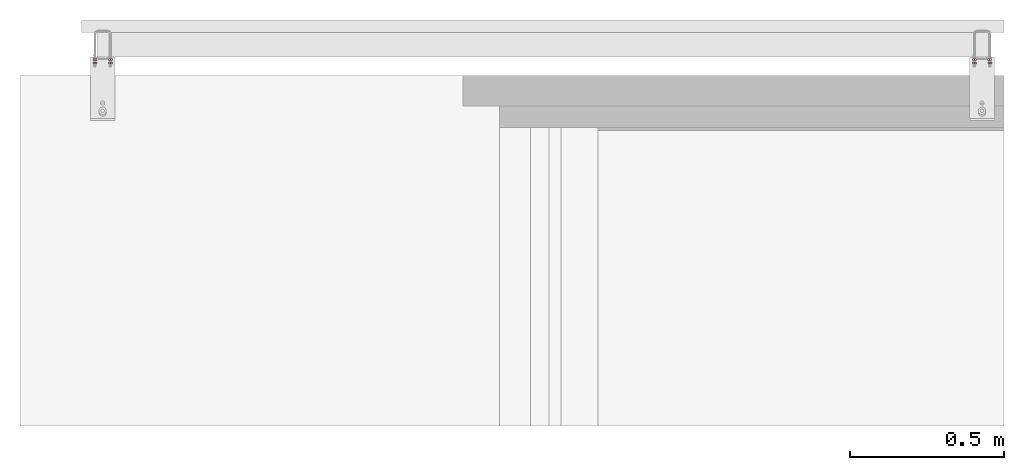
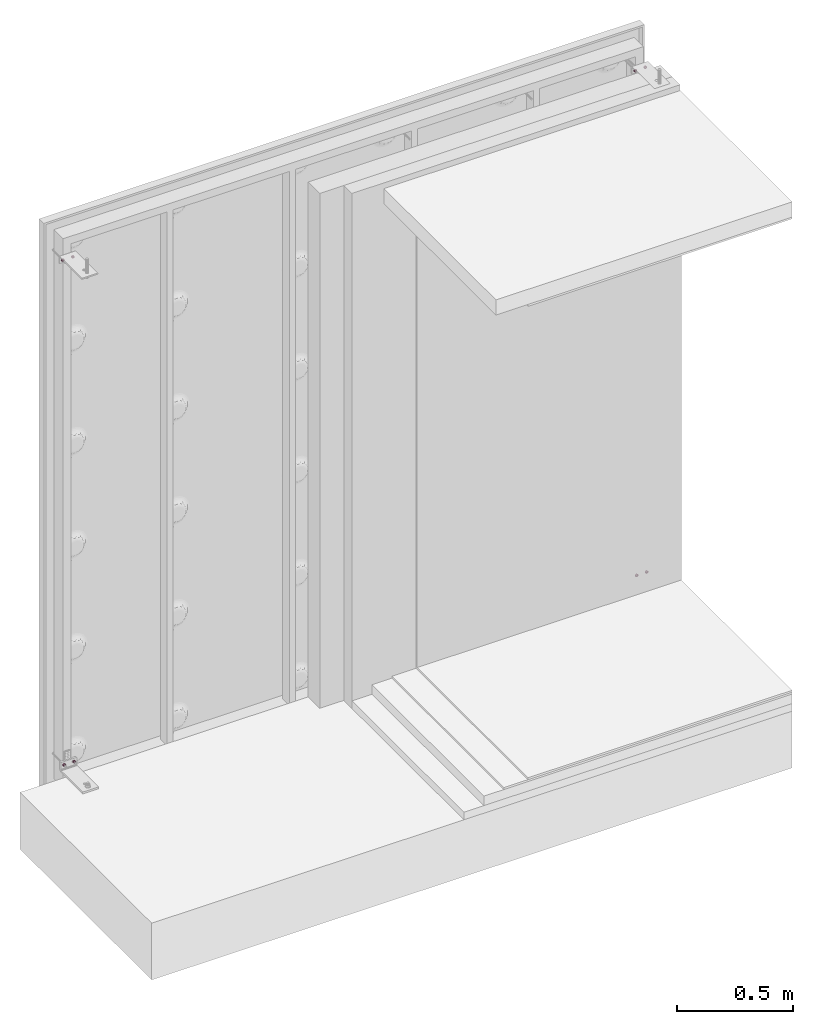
# One storey, part 13 of 13: 8 furnishings.
"""IFC2X3 building model written with IfcOpenShell, lengths in metres."""

import ifcopenshell
import ifcopenshell.guid

model = None  # the IFC model being written
_history = None  # IfcOwnerHistory: only IFC2X3 demands one
_inside = {}  # id of a spatial element -> (the spatial element, [elements in it])
_under = {}  # id of a project, library or spatial element -> (it, [spatial elements below it])
_declared = {}  # id of a project -> (the project, [libraries it declares])
_typed = {}  # id of a type object -> (the type object, [elements of that type])
_made_of = {}  # id of a material, layer set ... -> (it, [elements and type objects made of it])


def new_model(schema):
    """Start an empty IFC model of exactly this schema.

    Asked for "IFC4X3", IfcOpenShell would pick the latest addendum, in which some entities
    have other attributes; the version numbers below select the first issue.
    IFC2X3 requires an IfcOwnerHistory on every rooted entity: one is made here for all.
    """
    global model, _history
    if schema == "IFC4X3":
        model = ifcopenshell.file(schema_version=(4, 3, 0, 0))
    else:
        model = ifcopenshell.file(schema=schema)
    _inside.clear()
    _under.clear()
    _declared.clear()
    _typed.clear()
    _made_of.clear()
    _history = None
    if model.schema == "IFC2X3":
        org = make("IfcOrganization", Name="unknown")
        user = make(
            "IfcPersonAndOrganization",
            ThePerson=make("IfcPerson", FamilyName="unknown"),
            TheOrganization=org,
        )
        app = make(
            "IfcApplication",
            ApplicationDeveloper=org,
            Version="unknown",
            ApplicationFullName="unknown",
            ApplicationIdentifier="unknown",
        )
        _history = make(
            "IfcOwnerHistory",
            OwningUser=user,
            OwningApplication=app,
            ChangeAction="ADDED",
            CreationDate=0,
        )
    return model


def make(cls, **values):
    """One entity of the class cls with the attributes given. An attribute that is None is left unset."""
    return model.create_entity(
        cls, **{name: value for name, value in values.items() if value is not None}
    )


def entity(cls, *values):
    """Any entity or typed value of the class cls, its attributes in the order of the schema. None: left unset."""
    e = model.create_entity(cls)
    for i, value in enumerate(values):
        if value is not None:
            e[i] = value
    return e


def rooted(cls, **values):
    """An entity with a GlobalId (a new one), such as an element, a storey or a relation."""
    return make(cls, GlobalId=ifcopenshell.guid.new(), OwnerHistory=_history, **values)


def si_unit(unit_type, name, prefix=None):
    """IfcSIUnit, for example si_unit("LENGTHUNIT", "METRE", prefix="MILLI")."""
    return make("IfcSIUnit", UnitType=unit_type, Prefix=prefix, Name=name)


def converted_unit(unit_type, name, factor, base, dimensions=None, offset=None):
    """IfcConversionBasedUnit, such as the inch: factor (a typed value) times the base unit."""
    return make(
        "IfcConversionBasedUnit"
        if offset is None
        else "IfcConversionBasedUnitWithOffset",
        ConversionOffset=offset,
        Dimensions=None
        if dimensions is None
        else entity("IfcDimensionalExponents", *dimensions),
        UnitType=unit_type,
        Name=name,
        ConversionFactor=make(
            "IfcMeasureWithUnit", ValueComponent=factor, UnitComponent=base
        ),
    )


def derived_unit(unit_type, elements):
    """IfcDerivedUnit: a product of units, each with its exponent."""
    return make(
        "IfcDerivedUnit",
        Elements=[
            make("IfcDerivedUnitElement", Unit=unit, Exponent=power)
            for unit, power in elements
        ],
        UnitType=unit_type,
    )


def assignment(units):
    """IfcUnitAssignment: the units of a project."""
    return None if units is None else make("IfcUnitAssignment", Units=units)


def point(xyz):
    """IfcCartesianPoint."""
    return None if xyz is None else make("IfcCartesianPoint", Coordinates=xyz)


def direction(xyz):
    """IfcDirection."""
    return None if xyz is None else make("IfcDirection", DirectionRatios=xyz)


def frame(location, z_axis=None, x_axis=None):
    """IfcAxis2Placement3D, a coordinate frame: its origin and axes. An axis left out is left unset."""
    return make(
        "IfcAxis2Placement3D",
        Location=point(location),
        Axis=direction(z_axis),
        RefDirection=direction(x_axis),
    )


def frame_2d(location, x_axis=None):
    """IfcAxis2Placement2D, a coordinate frame in the plane: its origin and x axis."""
    return make(
        "IfcAxis2Placement2D", Location=point(location), RefDirection=direction(x_axis)
    )


def origin():
    """The frame at (0, 0, 0) with its axes left unset."""
    return frame((0.0, 0.0, 0.0))


def place(relative_to, where):
    """IfcLocalPlacement: puts the frame where relative to a parent placement (None: the world)."""
    return make(
        "IfcLocalPlacement", PlacementRelTo=relative_to, RelativePlacement=where
    )


def context(
    kind, dimensions, precision=None, world=None, true_north=None, identifier=None
):
    """IfcGeometricRepresentationContext, for example the 3D "Model" context."""
    return make(
        "IfcGeometricRepresentationContext",
        ContextIdentifier=identifier,
        ContextType=kind,
        CoordinateSpaceDimension=dimensions,
        Precision=precision,
        WorldCoordinateSystem=world,
        TrueNorth=true_north,
    )


def subcontext(parent, identifier, kind, view, scale=None):
    """IfcGeometricRepresentationSubContext, for example "Body" below "Model"."""
    return make(
        "IfcGeometricRepresentationSubContext",
        ContextIdentifier=identifier,
        ContextType=kind,
        ParentContext=parent,
        TargetScale=scale,
        TargetView=view,
    )


def project(units=None, contexts=None):
    """IfcProject with its units and contexts."""
    return rooted(
        "IfcProject",
        Name="project",
        RepresentationContexts=contexts,
        UnitsInContext=assignment(units),
    )


def spatial(cls, under=None, at=None, **own):
    """A site, building, storey or space (cls), placed at a placement, below another one or the project."""
    s = rooted(cls, ObjectPlacement=at, **own)
    if under is not None:
        _under.setdefault(under.id(), (under, []))[1].append(s)
    return s


def polyline(points):
    """IfcPolyline through the points."""
    return make("IfcPolyline", Points=[point(p) for p in points])


def circle_curve(where, radius):
    """IfcCircle in the frame where."""
    return make("IfcCircle", Position=where, Radius=radius)


def parameter(value):
    """IfcParameterValue: where a trimmed curve begins or ends, as a parameter of its basis curve."""
    return model.create_entity("IfcParameterValue", value)


def trimmed(basis, trim1, trim2, sense, master):
    """IfcTrimmedCurve: the piece of a basis curve between two trims."""
    return make(
        "IfcTrimmedCurve",
        BasisCurve=basis,
        Trim1=trim1,
        Trim2=trim2,
        SenseAgreement=sense,
        MasterRepresentation=master,
    )


def segment(curve, same_sense, transition):
    """IfcCompositeCurveSegment."""
    return make(
        "IfcCompositeCurveSegment",
        Transition=transition,
        SameSense=same_sense,
        ParentCurve=curve,
    )


def composite_curve(segments, self_intersect=None):
    """IfcCompositeCurve: segments joined end to end."""
    return make("IfcCompositeCurve", Segments=segments, SelfIntersect=self_intersect)


def outline(outer, holes=None, kind="AREA"):
    """IfcArbitraryClosedProfileDef: a profile drawn as a closed curve; with holes, ...WithVoids."""
    if holes is None:
        return make("IfcArbitraryClosedProfileDef", ProfileType=kind, OuterCurve=outer)
    return make(
        "IfcArbitraryProfileDefWithVoids",
        ProfileType=kind,
        OuterCurve=outer,
        InnerCurves=holes,
    )


def extrude(swept, where, along, depth):
    """IfcExtrudedAreaSolid: the profile swept, set in the frame where, extruded along a direction by depth."""
    return make(
        "IfcExtrudedAreaSolid",
        SweptArea=swept,
        Position=where,
        ExtrudedDirection=direction(along),
        Depth=depth,
    )


def shape(context_of_items, identifier, shape_type, items):
    """IfcShapeRepresentation: the items that make up one representation, for example the "Body"."""
    return make(
        "IfcShapeRepresentation",
        ContextOfItems=context_of_items,
        RepresentationIdentifier=identifier,
        RepresentationType=shape_type,
        Items=items,
    )


def source(mapping_origin, context_of_items, identifier, shape_type, items):
    """IfcRepresentationMap: a shape defined once, which mapped items show again and again."""
    return make(
        "IfcRepresentationMap",
        MappingOrigin=mapping_origin,
        MappedRepresentation=shape(context_of_items, identifier, shape_type, items),
    )


def transform(
    local_origin,
    x_axis=None,
    y_axis=None,
    z_axis=None,
    scale=None,
    scale2=None,
    scale3=None,
    uniform=True,
):
    """IfcCartesianTransformationOperator3D, or its non-uniform kind. x_axis, y_axis, z_axis: its Axis1, 2, 3."""
    if uniform:
        return make(
            "IfcCartesianTransformationOperator3D",
            Axis1=direction(x_axis),
            Axis2=direction(y_axis),
            LocalOrigin=point(local_origin),
            Scale=scale,
            Axis3=direction(z_axis),
        )
    return make(
        "IfcCartesianTransformationOperator3DnonUniform",
        Axis1=direction(x_axis),
        Axis2=direction(y_axis),
        LocalOrigin=point(local_origin),
        Scale=scale,
        Axis3=direction(z_axis),
        Scale2=scale2,
        Scale3=scale3,
    )


def mapped(mapping_source, mapping_target):
    """IfcMappedItem: shows the shape of a source again, moved by a transform."""
    return make(
        "IfcMappedItem", MappingSource=mapping_source, MappingTarget=mapping_target
    )


def material(Name=None, Category=None):
    """IfcMaterial."""
    return make("IfcMaterial", Name=Name, Category=Category)


def made_of(thing, what):
    """Note that an element or type object is made of a material, layer set ...; save() writes the relation."""
    if what is not None:
        _made_of.setdefault(what.id(), (what, []))[1].append(thing)
    return thing


def type_object(cls, material=None, **own):
    """A type object (cls), such as IfcWallType, which elements share."""
    return made_of(rooted(cls, **own), material)


def type_shapes(of_type, sources):
    """Give a type object the sources (RepresentationMaps) that its elements show as mapped items."""
    of_type.RepresentationMaps = sources


def element(
    cls,
    number,
    at=None,
    inside=None,
    cuts=None,
    type_object=None,
    material=None,
    context=None,
    identifier="Body",
    shape_type=None,
    held_by="IfcProductDefinitionShape",
    body=None,
    shapes=None,
    **own,
):
    """One element of the class cls, such as IfcWall. Its Tag is "e" and its number.

    at: its placement. inside: the storey or other place that contains it. cuts: it is an
    opening in that element (IfcRelVoidsElement). A single representation is given by context,
    identifier, shape_type and body (its items); several are given by shapes. held_by: the class
    of the entity that holds the representations. save() writes the other relations.
    """
    e = rooted(cls, Tag="e%d" % number, ObjectPlacement=at, **own)
    if body is not None:
        shapes = [shape(context, identifier, shape_type, body)]
    if shapes is not None:
        e.Representation = make(held_by, Representations=shapes)
    if inside is not None:
        _inside.setdefault(inside.id(), (inside, []))[1].append(e)
    if cuts is not None:
        rooted(
            "IfcRelVoidsElement", RelatingBuildingElement=cuts, RelatedOpeningElement=e
        )
    if type_object is not None:
        _typed.setdefault(type_object.id(), (type_object, []))[1].append(e)
    return made_of(e, material)


def aggregate(whole, parts):
    """IfcRelAggregates: a whole, such as a stair, and the parts it consists of."""
    return rooted("IfcRelAggregates", RelatingObject=whole, RelatedObjects=parts)


def save(model, path):
    """Write the relations noted so far, then the file.

    IfcRelAggregates (storeys below a building ...), IfcRelContainedInSpatialStructure (elements
    in a storey), IfcRelDefinesByType, IfcRelAssociatesMaterial and IfcRelDeclares: one each for
    every whole, place, type object, material and project.
    """
    for whole, parts in _under.values():
        aggregate(whole, parts)
    for where, things in _inside.values():
        rooted(
            "IfcRelContainedInSpatialStructure",
            RelatedElements=things,
            RelatingStructure=where,
        )
    for kind, things in _typed.values():
        rooted("IfcRelDefinesByType", RelatedObjects=things, RelatingType=kind)
    for what, things in _made_of.values():
        rooted("IfcRelAssociatesMaterial", RelatedObjects=things, RelatingMaterial=what)
    for by, libraries in _declared.values():
        rooted("IfcRelDeclares", RelatingContext=by, RelatedDefinitions=libraries)
    model.write(path)


model = new_model("IFC2X3")

# Units and contexts
model_context = context("Model", 3, precision=1e-05, world=origin(), true_north=direction((6.123031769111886e-17, 1.0)))
body_context = subcontext(model_context, "Body", "Model", "MODEL_VIEW")
ifc_project = project(units=[si_unit("LENGTHUNIT", "METRE"), si_unit("AREAUNIT", "SQUARE_METRE"), converted_unit("PLANEANGLEUNIT", "DEGREE", entity("IfcPlaneAngleMeasure", 0.017453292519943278), si_unit("PLANEANGLEUNIT", "RADIAN"), dimensions=[0, 0, 0, 0, 0, 0, 0]), si_unit("VOLUMEUNIT", "CUBIC_METRE"), derived_unit("THERMALTRANSMITTANCEUNIT", [(si_unit("MASSUNIT", "GRAM", prefix="KILO"), 1), (si_unit("THERMODYNAMICTEMPERATUREUNIT", "KELVIN"), -1), (si_unit("TIMEUNIT", "SECOND"), -3)]), derived_unit("USERDEFINED", [(si_unit("MASSUNIT", "GRAM", prefix="KILO"), 1), (si_unit("THERMODYNAMICTEMPERATUREUNIT", "KELVIN"), -1), (si_unit("TIMEUNIT", "SECOND"), -2)]), derived_unit("THERMALRESISTANCEUNIT", [(si_unit("MASSUNIT", "GRAM", prefix="KILO"), -1), (si_unit("TIMEUNIT", "SECOND"), 3), (si_unit("THERMODYNAMICTEMPERATUREUNIT", "KELVIN"), 1)]), derived_unit("MASSDENSITYUNIT", [(si_unit("MASSUNIT", "GRAM", prefix="KILO"), 1), (si_unit("LENGTHUNIT", "METRE"), -3)]), derived_unit("VAPORPERMEABILITYUNIT", [(si_unit("LENGTHUNIT", "METRE"), -1), (si_unit("TIMEUNIT", "SECOND"), 1)]), derived_unit("USERDEFINED", [(si_unit("MASSUNIT", "GRAM", prefix="KILO"), 1), (si_unit("TIMEUNIT", "SECOND"), -3), (si_unit("LENGTHUNIT", "METRE"), 3), (si_unit("ELECTRICCURRENTUNIT", "AMPERE"), -2)]), si_unit("PRESSUREUNIT", "PASCAL")], contexts=[model_context])

# Site, building, storey
site_placement = place(None, origin())
site = spatial("IfcSite", under=ifc_project, at=site_placement, Name="Default", CompositionType="ELEMENT")
building_placement = place(site_placement, origin())
building = spatial("IfcBuilding", under=site, at=building_placement, CompositionType="ELEMENT")
storey_placement = place(building_placement, origin())
storey = spatial("IfcBuildingStorey", under=building, at=storey_placement, Name="L0", CompositionType="ELEMENT", Elevation=0.0)

# Furnishings
ifc_material = material(Name="REC_Acero, S 275JR (Zincado)")
furniture_type = type_object("IfcFurnitureType", Name="REC_A_M8:REC_A_M8", AssemblyPlace="NOTDEFINED", material=ifc_material)
shared_shape = source(origin(), body_context, "Body", "SweptSolid", [
    extrude(outline(polyline([(-0.003752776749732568, -0.006500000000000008), (0.0037527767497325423, -0.006500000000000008), (0.00750555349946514, 0.0), (0.003752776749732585, 0.006499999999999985), (-0.0037527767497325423, 0.006500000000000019), (-0.007505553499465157, 0.0), (-0.003752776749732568, -0.006500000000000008)]), holes=[composite_curve([segment(trimmed(circle_curve(frame_2d((0.0, 0.0), x_axis=(0.0, 1.0)), 0.004), [parameter(3.5622212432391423e-13)], [parameter(180.00000000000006)], True, "PARAMETER"), False, "CONTINUOUS"), segment(trimmed(circle_curve(frame_2d((0.0, 0.0), x_axis=(0.0, 1.0)), 0.004), [parameter(179.9999999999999)], [parameter(0.0)], True, "PARAMETER"), False, "CONTINUOUS")], self_intersect=False)]), frame((0.0, 0.0, 0.0), z_axis=(0.0, 0.0, 1.0), x_axis=(0.0, -1.0, 0.0)), (0.0, 0.0, 1.0), 0.006500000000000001),
])
type_shapes(furniture_type, [shared_shape])
for number, where, z_axis, x_axis in (
    (1, (4.981247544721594, 15.98853029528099, 2.6949158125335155), (0.0, -1.0, 0.0), (-1.0, 0.0, 0.0)),
    (2, (4.931247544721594, 15.98853029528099, 2.6949158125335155), (0.0, -1.0, 0.0), (-1.0, 0.0, 0.0)),
    (3, (4.931482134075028, 15.978030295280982, 0.03508418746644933), (0.0, -1.0, 0.0), (1.0, 0.0, 0.0)),
    (4, (4.981482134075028, 15.978030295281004, 0.03508418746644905), (0.0, -1.0, 0.0), (1.0, 0.0, 0.0)),
    (5, (7.79148213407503, 15.978030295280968, 0.035084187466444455), (0.0, -1.0, 0.0), (1.0, 0.0, 0.0)),
    (6, (7.841482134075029, 15.97803029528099, 0.03508418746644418), (0.0, -1.0, 0.0), (1.0, 0.0, 0.0)),
    (7, (7.841247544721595, 15.988530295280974, 2.6949158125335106), (0.0, -1.0, 0.0), (-1.0, 0.0, 0.0)),
    (8, (7.791247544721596, 15.988530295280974, 2.6949158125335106), (0.0, -1.0, 0.0), (-1.0, 0.0, 0.0)),
):
    element("IfcFurnishingElement", number, at=place(storey_placement, frame(where, z_axis=z_axis, x_axis=x_axis)), inside=storey, type_object=furniture_type, material=ifc_material, Name="REC_A_M8:REC_A_M8", ObjectType="REC_A_M8:REC_A_M8", context=body_context, shape_type="MappedRepresentation", body=[
        mapped(shared_shape, transform((0.0, 0.0, 0.0), scale=1.0)),
    ])

save(model, "model.ifc")
